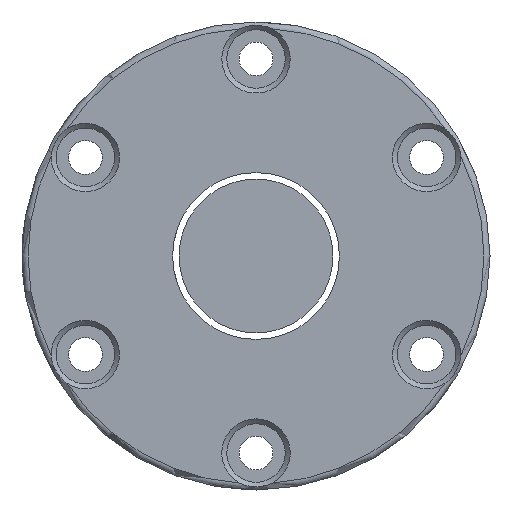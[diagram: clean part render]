
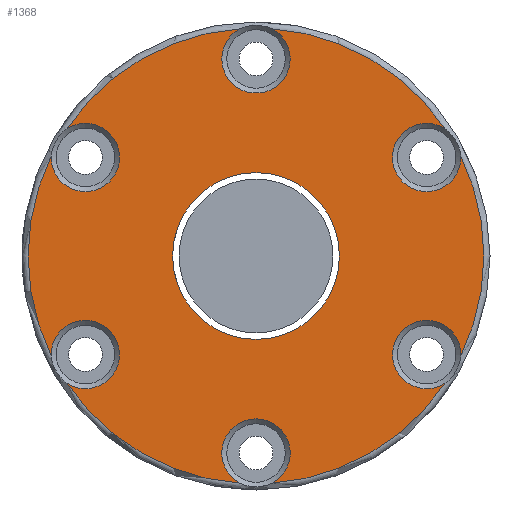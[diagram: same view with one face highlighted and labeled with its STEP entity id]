
A CAD part, left-side view. The second image highlights one B-rep face of the part: STEP entity #1368.
In plain terms, the highlighted planar face has unit normal (-1, 0, 0).
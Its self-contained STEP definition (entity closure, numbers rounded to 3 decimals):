
#6 = CARTESIAN_POINT ( 'NONE',  ( -62., 30.67, 20.696 ) ) ;
#74 = CARTESIAN_POINT ( 'NONE',  ( -62., 2.589, 36.909 ) ) ;
#96 = VERTEX_POINT ( 'NONE', #1631 ) ;
#112 = EDGE_LOOP ( 'NONE', ( #2227, #153, #1299, #1053, #1788, #2991, #387, #2606, #1530, #1496, #1689, #865 ) ) ;
#140 = CARTESIAN_POINT ( 'NONE',  ( -62., 0., 0. ) ) ;
#153 = ORIENTED_EDGE ( 'NONE', *, *, #2231, .T. ) ;
#177 = EDGE_LOOP ( 'NONE', ( #2109 ) ) ;
#210 = DIRECTION ( 'NONE',  ( 0., 0., 1. ) ) ;
#213 = DIRECTION ( 'NONE',  ( -1., 0., 0. ) ) ;
#226 = AXIS2_PLACEMENT_3D ( 'NONE', #2130, #2624, #2637 ) ;
#270 = AXIS2_PLACEMENT_3D ( 'NONE', #378, #602, #1341 ) ;
#283 = CIRCLE ( 'NONE', #1849, 13.55 ) ;
#309 = VERTEX_POINT ( 'NONE', #2514 ) ;
#335 = DIRECTION ( 'NONE',  ( 1., 0., 0. ) ) ;
#378 = CARTESIAN_POINT ( 'NONE',  ( -62., 0., 0. ) ) ;
#387 = ORIENTED_EDGE ( 'NONE', *, *, #3059, .T. ) ;
#421 = DIRECTION ( 'NONE',  ( 1., 0., 0. ) ) ;
#428 = EDGE_CURVE ( 'NONE', #2212, #640, #2638, .T. ) ;
#439 = DIRECTION ( 'NONE',  ( 0., 0., 1. ) ) ;
#542 = CIRCLE ( 'NONE', #2149, 5.55 ) ;
#602 = DIRECTION ( 'NONE',  ( -1., 0., 0. ) ) ;
#621 = CARTESIAN_POINT ( 'NONE',  ( -62., 0., -13.55 ) ) ;
#629 = CIRCLE ( 'NONE', #270, 37. ) ;
#640 = VERTEX_POINT ( 'NONE', #1981 ) ;
#685 = CIRCLE ( 'NONE', #835, 5.55 ) ;
#692 = CARTESIAN_POINT ( 'NONE',  ( -62., -33.259, 16.213 ) ) ;
#730 = DIRECTION ( 'NONE',  ( 0., 0., -1. ) ) ;
#740 = DIRECTION ( 'NONE',  ( 0., 0., 1. ) ) ;
#742 = CARTESIAN_POINT ( 'NONE',  ( -62., 33.259, 16.213 ) ) ;
#772 = CARTESIAN_POINT ( 'NONE',  ( -62., 33.259, -16.213 ) ) ;
#778 = CIRCLE ( 'NONE', #1633, 37. ) ;
#781 = CIRCLE ( 'NONE', #1839, 5.55 ) ;
#786 = DIRECTION ( 'NONE',  ( -1., 0., 0. ) ) ;
#789 = AXIS2_PLACEMENT_3D ( 'NONE', #2654, #980, #1645 ) ;
#819 = VERTEX_POINT ( 'NONE', #1675 ) ;
#835 = AXIS2_PLACEMENT_3D ( 'NONE', #905, #2332, #873 ) ;
#858 = PLANE ( 'NONE',  #1180 ) ;
#865 = ORIENTED_EDGE ( 'NONE', *, *, #1190, .T. ) ;
#873 = DIRECTION ( 'NONE',  ( 0., 0., 1. ) ) ;
#902 = CIRCLE ( 'NONE', #789, 5.55 ) ;
#905 = CARTESIAN_POINT ( 'NONE',  ( -62., 0., 32. ) ) ;
#964 = DIRECTION ( 'NONE',  ( 0., 0., 1. ) ) ;
#975 = CARTESIAN_POINT ( 'NONE',  ( -62., -27.713, -16. ) ) ;
#980 = DIRECTION ( 'NONE',  ( 1., 0., 0. ) ) ;
#1053 = ORIENTED_EDGE ( 'NONE', *, *, #3036, .T. ) ;
#1070 = VERTEX_POINT ( 'NONE', #1902 ) ;
#1071 = CARTESIAN_POINT ( 'NONE',  ( -62., -2.589, 36.909 ) ) ;
#1084 = CIRCLE ( 'NONE', #2291, 37. ) ;
#1132 = AXIS2_PLACEMENT_3D ( 'NONE', #3107, #2102, #964 ) ;
#1145 = DIRECTION ( 'NONE',  ( 0., 0., 1. ) ) ;
#1180 = AXIS2_PLACEMENT_3D ( 'NONE', #2302, #786, #1995 ) ;
#1190 = EDGE_CURVE ( 'NONE', #309, #1282, #778, .T. ) ;
#1276 = AXIS2_PLACEMENT_3D ( 'NONE', #975, #2447, #740 ) ;
#1282 = VERTEX_POINT ( 'NONE', #1071 ) ;
#1286 = EDGE_CURVE ( 'NONE', #819, #96, #629, .T. ) ;
#1290 = FACE_BOUND ( 'NONE', #177, .T. ) ;
#1299 = ORIENTED_EDGE ( 'NONE', *, *, #2736, .T. ) ;
#1341 = DIRECTION ( 'NONE',  ( 0., 0., 1. ) ) ;
#1368 = ADVANCED_FACE ( 'NONE', ( #2235, #1290 ), #858, .T. ) ;
#1410 = CARTESIAN_POINT ( 'NONE',  ( -62., 0., 0. ) ) ;
#1496 = ORIENTED_EDGE ( 'NONE', *, *, #1744, .T. ) ;
#1512 = EDGE_CURVE ( 'NONE', #1282, #2084, #685, .T. ) ;
#1530 = ORIENTED_EDGE ( 'NONE', *, *, #428, .T. ) ;
#1538 = DIRECTION ( 'NONE',  ( -1., 0., 0. ) ) ;
#1541 = AXIS2_PLACEMENT_3D ( 'NONE', #1410, #2377, #210 ) ;
#1631 = CARTESIAN_POINT ( 'NONE',  ( -62., 2.589, -36.909 ) ) ;
#1633 = AXIS2_PLACEMENT_3D ( 'NONE', #140, #1538, #1789 ) ;
#1645 = DIRECTION ( 'NONE',  ( 0., 0., 1. ) ) ;
#1675 = CARTESIAN_POINT ( 'NONE',  ( -62., 30.67, -20.696 ) ) ;
#1683 = DIRECTION ( 'NONE',  ( 1., 0., 0. ) ) ;
#1689 = ORIENTED_EDGE ( 'NONE', *, *, #2548, .T. ) ;
#1696 = CARTESIAN_POINT ( 'NONE',  ( -62., 0., -32. ) ) ;
#1744 = EDGE_CURVE ( 'NONE', #640, #2891, #2348, .T. ) ;
#1788 = ORIENTED_EDGE ( 'NONE', *, *, #2884, .T. ) ;
#1789 = DIRECTION ( 'NONE',  ( 0., 0., 1. ) ) ;
#1839 = AXIS2_PLACEMENT_3D ( 'NONE', #2281, #421, #1145 ) ;
#1849 = AXIS2_PLACEMENT_3D ( 'NONE', #2883, #2419, #730 ) ;
#1902 = CARTESIAN_POINT ( 'NONE',  ( -62., -2.589, -36.909 ) ) ;
#1957 = VERTEX_POINT ( 'NONE', #742 ) ;
#1981 = CARTESIAN_POINT ( 'NONE',  ( -62., -33.259, -16.213 ) ) ;
#1995 = DIRECTION ( 'NONE',  ( 0., 0., 1. ) ) ;
#2034 = VERTEX_POINT ( 'NONE', #772 ) ;
#2077 = CARTESIAN_POINT ( 'NONE',  ( -62., -30.67, -20.696 ) ) ;
#2084 = VERTEX_POINT ( 'NONE', #74 ) ;
#2102 = DIRECTION ( 'NONE',  ( -1., 0., 0. ) ) ;
#2109 = ORIENTED_EDGE ( 'NONE', *, *, #2864, .T. ) ;
#2130 = CARTESIAN_POINT ( 'NONE',  ( -62., 0., 0. ) ) ;
#2149 = AXIS2_PLACEMENT_3D ( 'NONE', #3086, #1683, #439 ) ;
#2212 = VERTEX_POINT ( 'NONE', #2077 ) ;
#2227 = ORIENTED_EDGE ( 'NONE', *, *, #1512, .T. ) ;
#2231 = EDGE_CURVE ( 'NONE', #2084, #2761, #1084, .T. ) ;
#2235 = FACE_OUTER_BOUND ( 'NONE', #112, .T. ) ;
#2281 = CARTESIAN_POINT ( 'NONE',  ( -62., -27.713, 16. ) ) ;
#2291 = AXIS2_PLACEMENT_3D ( 'NONE', #2380, #213, #2333 ) ;
#2302 = CARTESIAN_POINT ( 'NONE',  ( -62., 38., 0. ) ) ;
#2305 = CIRCLE ( 'NONE', #3048, 5.55 ) ;
#2332 = DIRECTION ( 'NONE',  ( 1., 0., 0. ) ) ;
#2333 = DIRECTION ( 'NONE',  ( 0., 0., 1. ) ) ;
#2348 = CIRCLE ( 'NONE', #1132, 37. ) ;
#2349 = CIRCLE ( 'NONE', #226, 37. ) ;
#2377 = DIRECTION ( 'NONE',  ( -1., 0., 0. ) ) ;
#2380 = CARTESIAN_POINT ( 'NONE',  ( -62., 0., 0. ) ) ;
#2419 = DIRECTION ( 'NONE',  ( 1., 0., 0. ) ) ;
#2447 = DIRECTION ( 'NONE',  ( 1., 0., 0. ) ) ;
#2514 = CARTESIAN_POINT ( 'NONE',  ( -62., -30.67, 20.696 ) ) ;
#2548 = EDGE_CURVE ( 'NONE', #2891, #309, #781, .T. ) ;
#2585 = EDGE_CURVE ( 'NONE', #1070, #2212, #2349, .T. ) ;
#2606 = ORIENTED_EDGE ( 'NONE', *, *, #2585, .T. ) ;
#2624 = DIRECTION ( 'NONE',  ( -1., 0., 0. ) ) ;
#2637 = DIRECTION ( 'NONE',  ( 0., 0., 1. ) ) ;
#2638 = CIRCLE ( 'NONE', #1276, 5.55 ) ;
#2654 = CARTESIAN_POINT ( 'NONE',  ( -62., 27.713, -16. ) ) ;
#2736 = EDGE_CURVE ( 'NONE', #2761, #1957, #542, .T. ) ;
#2761 = VERTEX_POINT ( 'NONE', #6 ) ;
#2767 = VERTEX_POINT ( 'NONE', #621 ) ;
#2854 = CIRCLE ( 'NONE', #1541, 37. ) ;
#2864 = EDGE_CURVE ( 'NONE', #2767, #2767, #283, .T. ) ;
#2883 = CARTESIAN_POINT ( 'NONE',  ( -62., 0., 0. ) ) ;
#2884 = EDGE_CURVE ( 'NONE', #2034, #819, #902, .T. ) ;
#2891 = VERTEX_POINT ( 'NONE', #692 ) ;
#2943 = DIRECTION ( 'NONE',  ( 0., 0., 1. ) ) ;
#2991 = ORIENTED_EDGE ( 'NONE', *, *, #1286, .T. ) ;
#3036 = EDGE_CURVE ( 'NONE', #1957, #2034, #2854, .T. ) ;
#3048 = AXIS2_PLACEMENT_3D ( 'NONE', #1696, #335, #2943 ) ;
#3059 = EDGE_CURVE ( 'NONE', #96, #1070, #2305, .T. ) ;
#3086 = CARTESIAN_POINT ( 'NONE',  ( -62., 27.713, 16. ) ) ;
#3107 = CARTESIAN_POINT ( 'NONE',  ( -62., 0., 0. ) ) ;
